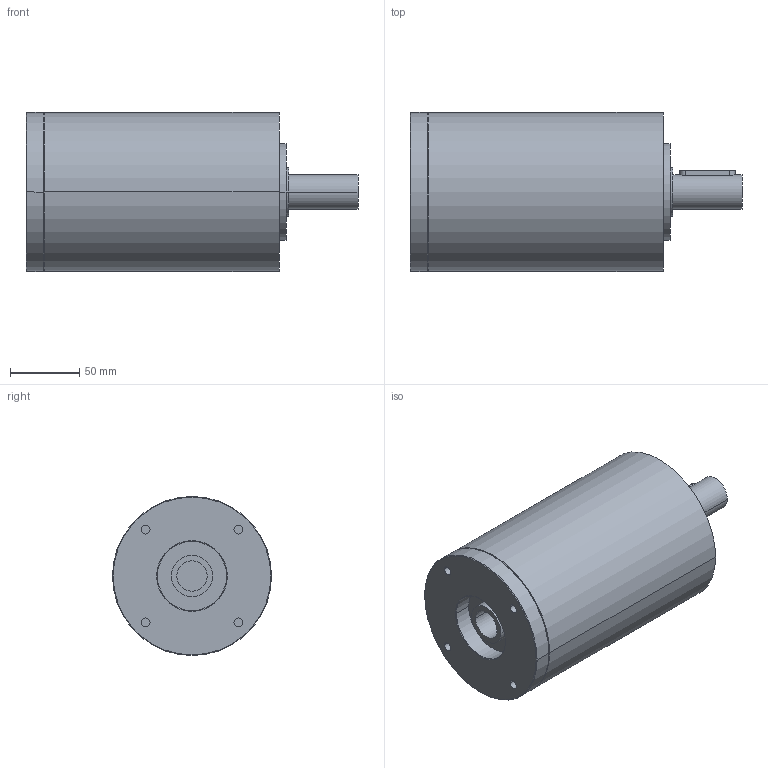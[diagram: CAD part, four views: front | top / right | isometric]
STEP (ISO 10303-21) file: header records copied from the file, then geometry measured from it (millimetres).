
FILE_DESCRIPTION(('CoCreate Modeling STEP Export'),'2;1');
FILE_NAME('GPR125_ig-9-12-16-20-28-35_25_B14_22_P19.stp','2014-08-26T14:11:07',(''),(''),'CoCreate Modeling STEP processor for AP214 (Solid Model)','CoCreate Modeling 16.00C 25-Feb-2009 (C) Parametric Technology GmbH','');
FILE_SCHEMA(('AUTOMOTIVE_DESIGN { 1 0 10303 214 1 1 1 1 }'));
Length unit declared in the file: millimetre
Products named in the file (2): GPR125_ig-9-12-16-20-28-35_25_B14_22_P19
Assembly tree (1 placements, depth 2):
  GPR125_ig-9-12-16-20-28-35_25_B14_22_P19
    GPR125_ig-9-12-16-20-28-35_25_B14_22_P19
Bounding box: 240 x 115 x 115 mm (x, y, z)
Volume: 1898602.7 mm3; surface area: 102764.7 mm2
Topology: 1 solids, 1 shells, 66 faces, 162 edges, 112 vertices
Faces by surface type: cylinder 36, plane 20, cone 10
Entity records: 1665 total; most frequent: ORIENTED_EDGE 320, CARTESIAN_POINT 314, DIRECTION 216, EDGE_CURVE 160, VERTEX_POINT 112, AXIS2_PLACEMENT_3D 82, EDGE_LOOP 82, FACE_OUTER_BOUND 66
